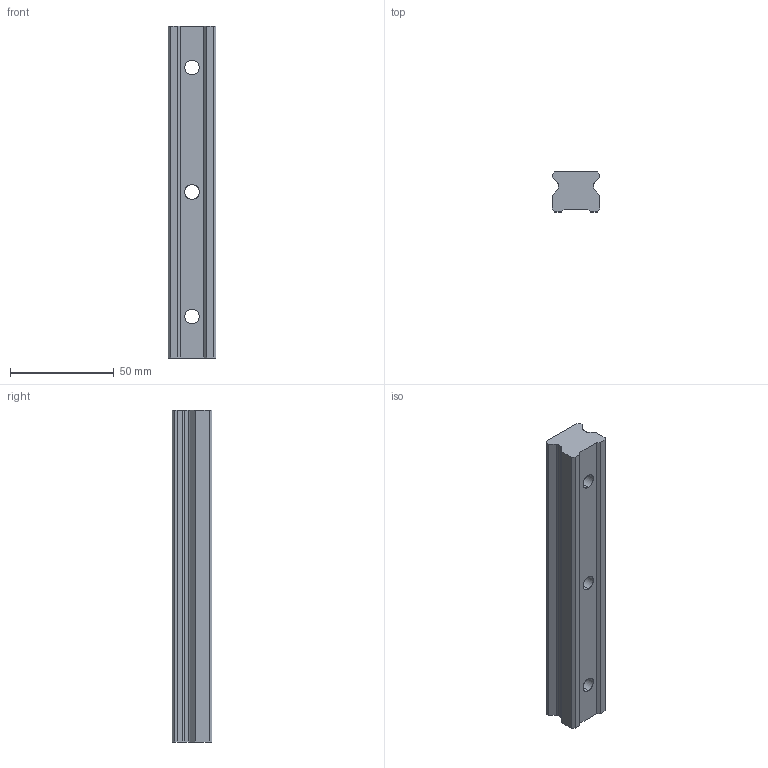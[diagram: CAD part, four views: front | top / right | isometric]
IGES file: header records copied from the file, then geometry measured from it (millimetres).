
Start section: SolidWorks IGES file using analytic representation for surfaces
Global section: file name: C:\Users\IanO\Desktop\L1016_v2\L1016.BL25_v2\L1016.BL25_v2_20160611_IGES\L1016.BL25-0160.igs; native system: SolidWorks 2017; preprocessor: SolidWorks 2017; author: IanO; date: 190612.130404; units: millimetre
Bounding box: 23 x 19.2 x 160 mm (x, y, z)
Surface area: 16009.7 mm2 (no closed solid volume)
Topology: 0 solids, 0 shells, 41 faces, 600 edges, 600 vertices
Faces by surface type: bspline 25, revolution 16
